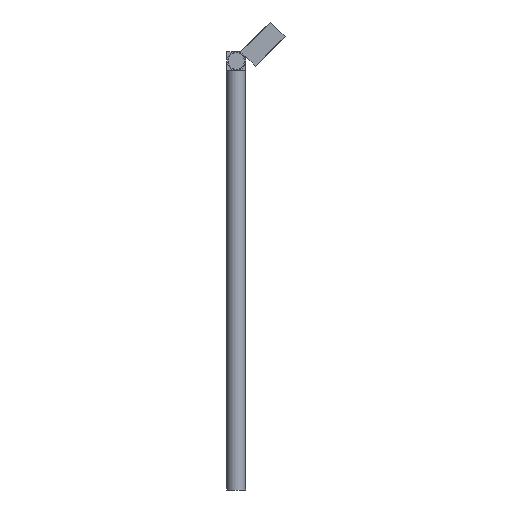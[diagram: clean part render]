
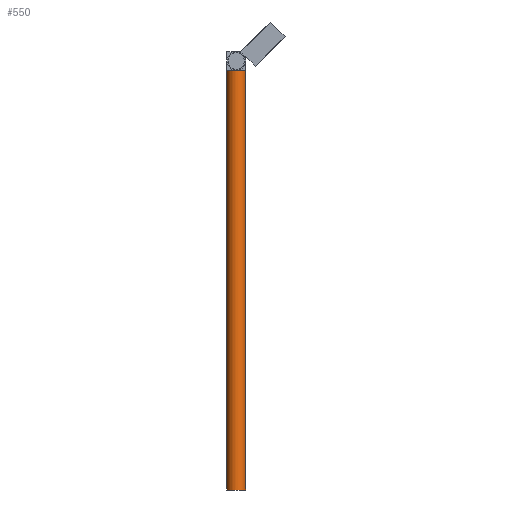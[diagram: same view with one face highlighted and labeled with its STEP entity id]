
A CAD part, front view. The second image highlights one B-rep face of the part: STEP entity #550.
In plain terms, the highlighted cylindrical face has radius 16 mm (diameter 32 mm), a full revolution.
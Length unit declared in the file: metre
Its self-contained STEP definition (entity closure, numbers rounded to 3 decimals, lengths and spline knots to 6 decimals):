
#24=CIRCLE('',#614,0.016);
#25=CIRCLE('',#615,0.016);
#26=CIRCLE('',#616,0.016);
#27=CIRCLE('',#617,0.016);
#28=CIRCLE('',#618,0.016);
#38=CYLINDRICAL_SURFACE('',#613,0.016);
#81=ORIENTED_EDGE('',*,*,#222,.F.);
#82=ORIENTED_EDGE('',*,*,#223,.F.);
#83=ORIENTED_EDGE('',*,*,#224,.F.);
#84=ORIENTED_EDGE('',*,*,#225,.F.);
#85=ORIENTED_EDGE('',*,*,#226,.T.);
#222=EDGE_CURVE('',#290,#274,#24,.T.);
#223=EDGE_CURVE('',#282,#290,#25,.T.);
#224=EDGE_CURVE('',#291,#282,#26,.T.);
#225=EDGE_CURVE('',#274,#291,#27,.T.);
#226=EDGE_CURVE('',#292,#292,#28,.T.);
#274=VERTEX_POINT('',#856);
#282=VERTEX_POINT('',#873);
#290=VERTEX_POINT('',#902);
#291=VERTEX_POINT('',#905);
#292=VERTEX_POINT('',#908);
#423=EDGE_LOOP('',(#81,#82,#83,#84));
#424=EDGE_LOOP('',(#85));
#473=FACE_BOUND('',#423,.T.);
#474=FACE_BOUND('',#424,.T.);
#550=ADVANCED_FACE('',(#473,#474),#38,.T.);
#613=AXIS2_PLACEMENT_3D('',#900,#719,#720);
#614=AXIS2_PLACEMENT_3D('',#901,#721,#722);
#615=AXIS2_PLACEMENT_3D('',#903,#723,#724);
#616=AXIS2_PLACEMENT_3D('',#904,#725,#726);
#617=AXIS2_PLACEMENT_3D('',#906,#727,#728);
#618=AXIS2_PLACEMENT_3D('',#907,#729,#730);
#719=DIRECTION('',(0.,0.,-1.));
#720=DIRECTION('',(-1.,0.,0.));
#721=DIRECTION('',(0.,0.,1.));
#722=DIRECTION('',(1.,0.,0.));
#723=DIRECTION('',(0.,0.,1.));
#724=DIRECTION('',(1.,0.,0.));
#725=DIRECTION('',(0.,0.,1.));
#726=DIRECTION('',(1.,0.,0.));
#727=DIRECTION('',(0.,0.,1.));
#728=DIRECTION('',(1.,0.,0.));
#729=DIRECTION('',(0.,0.,1.));
#730=DIRECTION('',(1.,0.,0.));
#856=CARTESIAN_POINT('',(0.,0.016,0.72));
#873=CARTESIAN_POINT('',(0.,-0.016,0.72));
#900=CARTESIAN_POINT('',(0.,0.,0.72));
#901=CARTESIAN_POINT('',(0.,0.,0.72));
#902=CARTESIAN_POINT('',(0.016,0.,0.72));
#903=CARTESIAN_POINT('',(0.,0.,0.72));
#904=CARTESIAN_POINT('',(0.,0.,0.72));
#905=CARTESIAN_POINT('',(-0.016,0.,0.72));
#906=CARTESIAN_POINT('',(0.,0.,0.72));
#907=CARTESIAN_POINT('',(0.,0.,0.));
#908=CARTESIAN_POINT('',(0.016,0.,0.));
